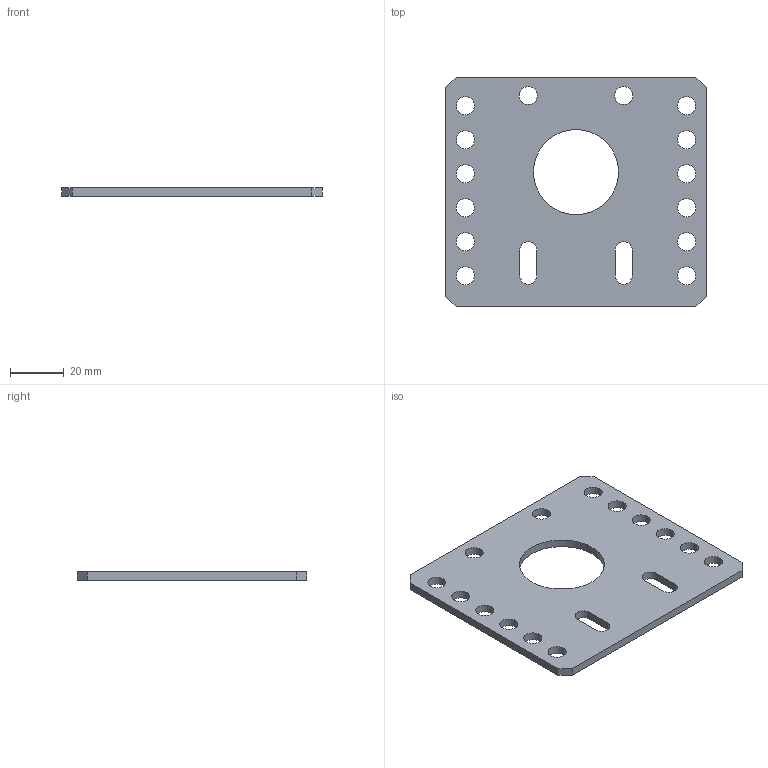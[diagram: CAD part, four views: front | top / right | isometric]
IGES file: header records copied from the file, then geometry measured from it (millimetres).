
Global section: file name: No Iges File Name specified; native system: AutoDesk Inventor R5.0; preprocessor: AutoDesk Inventor Iges Exporter R5.0; author: No Author specified; organization: No Organization specified; date: 20070111.212332; units: inch
Bounding box: 97.18 x 85.72 x 3.05 mm (x, y, z)
Surface area: 16186.9 mm2 (no closed solid volume)
Topology: 0 solids, 0 shells, 33 faces, 186 edges, 171 vertices
Faces by surface type: plane 12, bspline 12, revolution 9
